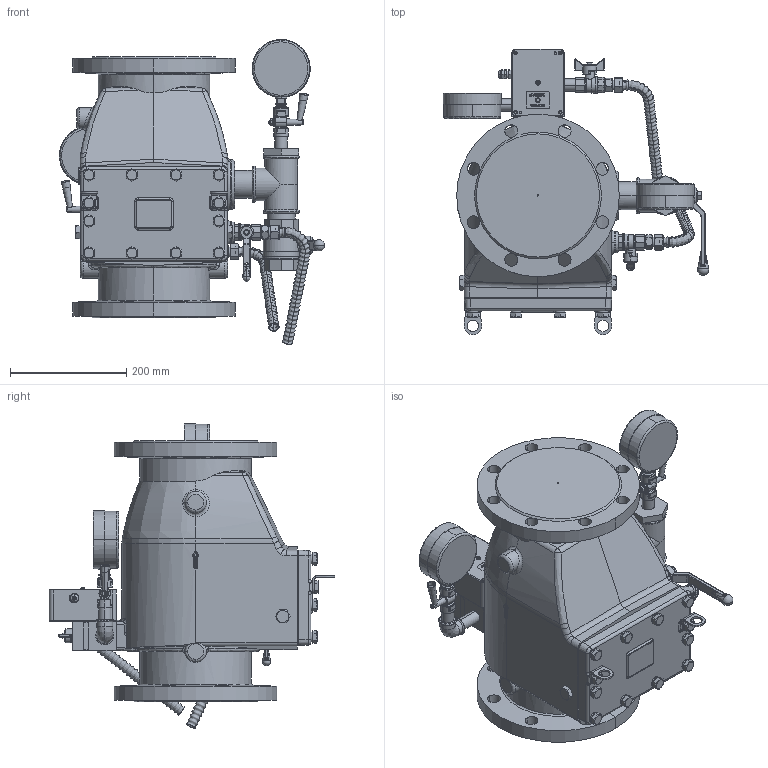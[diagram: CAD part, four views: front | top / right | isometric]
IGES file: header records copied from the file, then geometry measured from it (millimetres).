
Start section: File generated by T-FLEX CAD Version (null)
Global section: file name:                DN 150     _3D.igs; native system: T-FLEX CAD; date: 211013.153147; units: millimetre
Bounding box: 457 x 491.3 x 525.12 mm (x, y, z)
Volume: 26013724 mm3; surface area: 1381429.7 mm2
Topology: 48 solids, 63 shells, 2937 faces, 7199 edges, 4285 vertices
Faces by surface type: plane 1048, cylinder 940, bspline 373, cone 293, revolution 205, sphere 78
